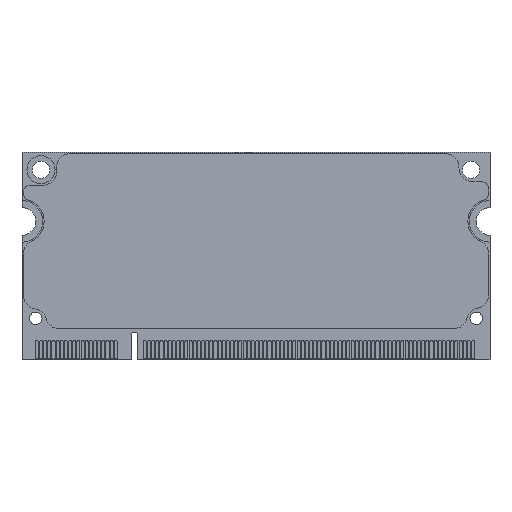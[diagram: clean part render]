
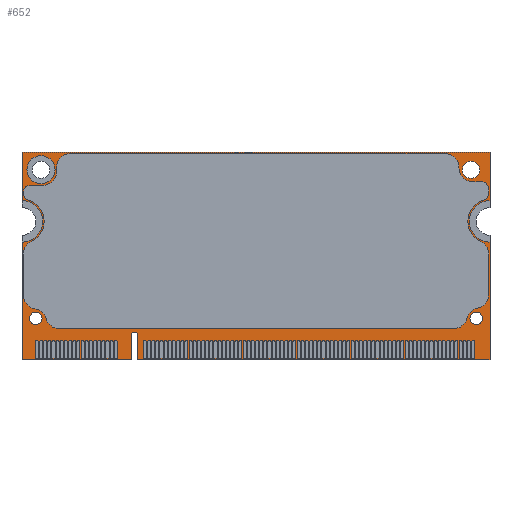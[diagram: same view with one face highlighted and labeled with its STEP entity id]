
A CAD part, top view. The second image highlights one B-rep face of the part: STEP entity #652.
In plain terms, the highlighted planar face has unit normal (0, 0, 1).
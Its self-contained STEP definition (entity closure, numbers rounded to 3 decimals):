
#124=AXIS2_PLACEMENT_3D('Circle Axis2P3D',#122,#123,$) ;
#243=AXIS2_PLACEMENT_3D('Circle Axis2P3D',#241,#242,$) ;
#362=AXIS2_PLACEMENT_3D('Circle Axis2P3D',#360,#361,$) ;
#405=AXIS2_PLACEMENT_3D('Circle Axis2P3D',#403,#404,$) ;
#431=AXIS2_PLACEMENT_3D('Circle Axis2P3D',#429,#430,$) ;
#462=AXIS2_PLACEMENT_3D('Circle Axis2P3D',#460,#461,$) ;
#488=AXIS2_PLACEMENT_3D('Circle Axis2P3D',#486,#487,$) ;
#519=AXIS2_PLACEMENT_3D('Circle Axis2P3D',#517,#518,$) ;
#545=AXIS2_PLACEMENT_3D('Circle Axis2P3D',#543,#544,$) ;
#576=AXIS2_PLACEMENT_3D('Circle Axis2P3D',#574,#575,$) ;
#602=AXIS2_PLACEMENT_3D('Circle Axis2P3D',#600,#601,$) ;
#620=AXIS2_PLACEMENT_3D('Plane Axis2P3D',#617,#618,#619) ;
#50=CARTESIAN_POINT('Vertex',(15.75,0.,0.)) ;
#53=CARTESIAN_POINT('Line Origine',(7.875,0.,0.)) ;
#57=CARTESIAN_POINT('Vertex',(0.,0.,0.)) ;
#88=CARTESIAN_POINT('Vertex',(15.75,3.5,0.)) ;
#91=CARTESIAN_POINT('Line Origine',(15.75,1.75,0.)) ;
#119=CARTESIAN_POINT('Vertex',(16.75,3.5,0.)) ;
#122=CARTESIAN_POINT('Axis2P3D Location',(16.25,3.5,0.)) ;
#150=CARTESIAN_POINT('Vertex',(16.75,0.,0.)) ;
#153=CARTESIAN_POINT('Line Origine',(16.75,1.75,0.)) ;
#176=CARTESIAN_POINT('Vertex',(67.6,0.,0.)) ;
#179=CARTESIAN_POINT('Line Origine',(42.175,0.,0.)) ;
#207=CARTESIAN_POINT('Vertex',(67.6,18.,0.)) ;
#210=CARTESIAN_POINT('Line Origine',(67.6,9.,0.)) ;
#238=CARTESIAN_POINT('Vertex',(67.6,22.,0.)) ;
#241=CARTESIAN_POINT('Axis2P3D Location',(67.6,20.,0.)) ;
#264=CARTESIAN_POINT('Vertex',(67.6,30.,0.)) ;
#267=CARTESIAN_POINT('Line Origine',(67.6,26.,0.)) ;
#295=CARTESIAN_POINT('Vertex',(0.,30.,0.)) ;
#298=CARTESIAN_POINT('Line Origine',(33.8,30.,0.)) ;
#326=CARTESIAN_POINT('Vertex',(0.,22.,0.)) ;
#329=CARTESIAN_POINT('Line Origine',(0.,26.,0.)) ;
#357=CARTESIAN_POINT('Vertex',(0.,18.,0.)) ;
#360=CARTESIAN_POINT('Axis2P3D Location',(0.,20.,0.)) ;
#377=CARTESIAN_POINT('Line Origine',(0.,9.,0.)) ;
#398=CARTESIAN_POINT('Vertex',(63.61,27.46,0.)) ;
#403=CARTESIAN_POINT('Axis2P3D Location',(64.86,27.46,0.)) ;
#407=CARTESIAN_POINT('Vertex',(66.11,27.46,0.)) ;
#429=CARTESIAN_POINT('Axis2P3D Location',(64.86,27.46,0.)) ;
#455=CARTESIAN_POINT('Vertex',(1.49,27.46,0.)) ;
#460=CARTESIAN_POINT('Axis2P3D Location',(2.74,27.46,0.)) ;
#464=CARTESIAN_POINT('Vertex',(3.99,27.46,0.)) ;
#486=CARTESIAN_POINT('Axis2P3D Location',(2.74,27.46,0.)) ;
#512=CARTESIAN_POINT('Vertex',(1.1,6.,0.)) ;
#517=CARTESIAN_POINT('Axis2P3D Location',(2.,6.,0.)) ;
#521=CARTESIAN_POINT('Vertex',(2.9,6.,0.)) ;
#543=CARTESIAN_POINT('Axis2P3D Location',(2.,6.,0.)) ;
#569=CARTESIAN_POINT('Vertex',(64.7,6.,0.)) ;
#574=CARTESIAN_POINT('Axis2P3D Location',(65.6,6.,0.)) ;
#578=CARTESIAN_POINT('Vertex',(66.5,6.,0.)) ;
#600=CARTESIAN_POINT('Axis2P3D Location',(65.6,6.,0.)) ;
#617=CARTESIAN_POINT('Axis2P3D Location',(0.,0.,0.)) ;
#54=DIRECTION('Vector Direction',(1.,0.,0.)) ;
#92=DIRECTION('Vector Direction',(0.,1.,0.)) ;
#123=DIRECTION('Axis2P3D Direction',(0.,0.,1.)) ;
#154=DIRECTION('Vector Direction',(0.,-1.,0.)) ;
#180=DIRECTION('Vector Direction',(-1.,0.,0.)) ;
#211=DIRECTION('Vector Direction',(0.,-1.,0.)) ;
#242=DIRECTION('Axis2P3D Direction',(0.,0.,1.)) ;
#268=DIRECTION('Vector Direction',(0.,-1.,0.)) ;
#299=DIRECTION('Vector Direction',(1.,0.,0.)) ;
#330=DIRECTION('Vector Direction',(0.,1.,0.)) ;
#361=DIRECTION('Axis2P3D Direction',(0.,0.,1.)) ;
#378=DIRECTION('Vector Direction',(0.,1.,0.)) ;
#404=DIRECTION('Axis2P3D Direction',(0.,0.,1.)) ;
#430=DIRECTION('Axis2P3D Direction',(0.,0.,1.)) ;
#461=DIRECTION('Axis2P3D Direction',(0.,0.,1.)) ;
#487=DIRECTION('Axis2P3D Direction',(0.,0.,1.)) ;
#518=DIRECTION('Axis2P3D Direction',(0.,0.,1.)) ;
#544=DIRECTION('Axis2P3D Direction',(0.,0.,1.)) ;
#575=DIRECTION('Axis2P3D Direction',(0.,0.,1.)) ;
#601=DIRECTION('Axis2P3D Direction',(0.,0.,1.)) ;
#618=DIRECTION('Axis2P3D Direction',(0.,0.,1.)) ;
#619=DIRECTION('Axis2P3D XDirection',(1.,0.,0.)) ;
#55=VECTOR('Line Direction',#54,1.) ;
#93=VECTOR('Line Direction',#92,1.) ;
#155=VECTOR('Line Direction',#154,1.) ;
#181=VECTOR('Line Direction',#180,1.) ;
#212=VECTOR('Line Direction',#211,1.) ;
#269=VECTOR('Line Direction',#268,1.) ;
#300=VECTOR('Line Direction',#299,1.) ;
#331=VECTOR('Line Direction',#330,1.) ;
#379=VECTOR('Line Direction',#378,1.) ;
#623=ORIENTED_EDGE('',*,*,#59,.T.) ;
#624=ORIENTED_EDGE('',*,*,#95,.T.) ;
#625=ORIENTED_EDGE('',*,*,#126,.T.) ;
#626=ORIENTED_EDGE('',*,*,#157,.T.) ;
#627=ORIENTED_EDGE('',*,*,#183,.T.) ;
#628=ORIENTED_EDGE('',*,*,#214,.T.) ;
#629=ORIENTED_EDGE('',*,*,#245,.T.) ;
#630=ORIENTED_EDGE('',*,*,#271,.T.) ;
#631=ORIENTED_EDGE('',*,*,#302,.T.) ;
#632=ORIENTED_EDGE('',*,*,#333,.T.) ;
#633=ORIENTED_EDGE('',*,*,#364,.T.) ;
#634=ORIENTED_EDGE('',*,*,#381,.T.) ;
#637=ORIENTED_EDGE('',*,*,#409,.F.) ;
#638=ORIENTED_EDGE('',*,*,#433,.F.) ;
#641=ORIENTED_EDGE('',*,*,#466,.F.) ;
#642=ORIENTED_EDGE('',*,*,#490,.F.) ;
#645=ORIENTED_EDGE('',*,*,#523,.F.) ;
#646=ORIENTED_EDGE('',*,*,#547,.F.) ;
#649=ORIENTED_EDGE('',*,*,#580,.F.) ;
#650=ORIENTED_EDGE('',*,*,#604,.F.) ;
#639=FACE_BOUND('',#636,.T.) ;
#643=FACE_BOUND('',#640,.T.) ;
#647=FACE_BOUND('',#644,.T.) ;
#651=FACE_BOUND('',#648,.T.) ;
#652=ADVANCED_FACE('Board',(#635,#639,#643,#647,#651),#621,.T.) ;
#125=CIRCLE('generated circle',#124,0.5) ;
#244=CIRCLE('generated circle',#243,2.) ;
#363=CIRCLE('generated circle',#362,2.) ;
#406=CIRCLE('generated circle',#405,1.25) ;
#432=CIRCLE('generated circle',#431,1.25) ;
#463=CIRCLE('generated circle',#462,1.25) ;
#489=CIRCLE('generated circle',#488,1.25) ;
#520=CIRCLE('generated circle',#519,0.9) ;
#546=CIRCLE('generated circle',#545,0.9) ;
#577=CIRCLE('generated circle',#576,0.9) ;
#603=CIRCLE('generated circle',#602,0.9) ;
#59=EDGE_CURVE('',#58,#51,#56,.T.) ;
#95=EDGE_CURVE('',#51,#89,#94,.T.) ;
#126=EDGE_CURVE('',#89,#120,#125,.F.) ;
#157=EDGE_CURVE('',#120,#151,#156,.T.) ;
#183=EDGE_CURVE('',#151,#177,#182,.F.) ;
#214=EDGE_CURVE('',#177,#208,#213,.F.) ;
#245=EDGE_CURVE('',#208,#239,#244,.F.) ;
#271=EDGE_CURVE('',#239,#265,#270,.F.) ;
#302=EDGE_CURVE('',#265,#296,#301,.F.) ;
#333=EDGE_CURVE('',#296,#327,#332,.F.) ;
#364=EDGE_CURVE('',#327,#358,#363,.F.) ;
#381=EDGE_CURVE('',#358,#58,#380,.F.) ;
#409=EDGE_CURVE('',#399,#408,#406,.T.) ;
#433=EDGE_CURVE('',#408,#399,#432,.T.) ;
#466=EDGE_CURVE('',#456,#465,#463,.T.) ;
#490=EDGE_CURVE('',#465,#456,#489,.T.) ;
#523=EDGE_CURVE('',#513,#522,#520,.T.) ;
#547=EDGE_CURVE('',#522,#513,#546,.T.) ;
#580=EDGE_CURVE('',#570,#579,#577,.T.) ;
#604=EDGE_CURVE('',#579,#570,#603,.T.) ;
#622=EDGE_LOOP('',(#623,#624,#625,#626,#627,#628,#629,#630,#631,#632,#633,#634)) ;
#636=EDGE_LOOP('',(#637,#638)) ;
#640=EDGE_LOOP('',(#641,#642)) ;
#644=EDGE_LOOP('',(#645,#646)) ;
#648=EDGE_LOOP('',(#649,#650)) ;
#635=FACE_OUTER_BOUND('',#622,.T.) ;
#56=LINE('Line',#53,#55) ;
#94=LINE('Line',#91,#93) ;
#156=LINE('Line',#153,#155) ;
#182=LINE('Line',#179,#181) ;
#213=LINE('Line',#210,#212) ;
#270=LINE('Line',#267,#269) ;
#301=LINE('Line',#298,#300) ;
#332=LINE('Line',#329,#331) ;
#380=LINE('Line',#377,#379) ;
#621=PLANE('Plane',#620) ;
#51=VERTEX_POINT('',#50) ;
#58=VERTEX_POINT('',#57) ;
#89=VERTEX_POINT('',#88) ;
#120=VERTEX_POINT('',#119) ;
#151=VERTEX_POINT('',#150) ;
#177=VERTEX_POINT('',#176) ;
#208=VERTEX_POINT('',#207) ;
#239=VERTEX_POINT('',#238) ;
#265=VERTEX_POINT('',#264) ;
#296=VERTEX_POINT('',#295) ;
#327=VERTEX_POINT('',#326) ;
#358=VERTEX_POINT('',#357) ;
#399=VERTEX_POINT('',#398) ;
#408=VERTEX_POINT('',#407) ;
#456=VERTEX_POINT('',#455) ;
#465=VERTEX_POINT('',#464) ;
#513=VERTEX_POINT('',#512) ;
#522=VERTEX_POINT('',#521) ;
#570=VERTEX_POINT('',#569) ;
#579=VERTEX_POINT('',#578) ;
